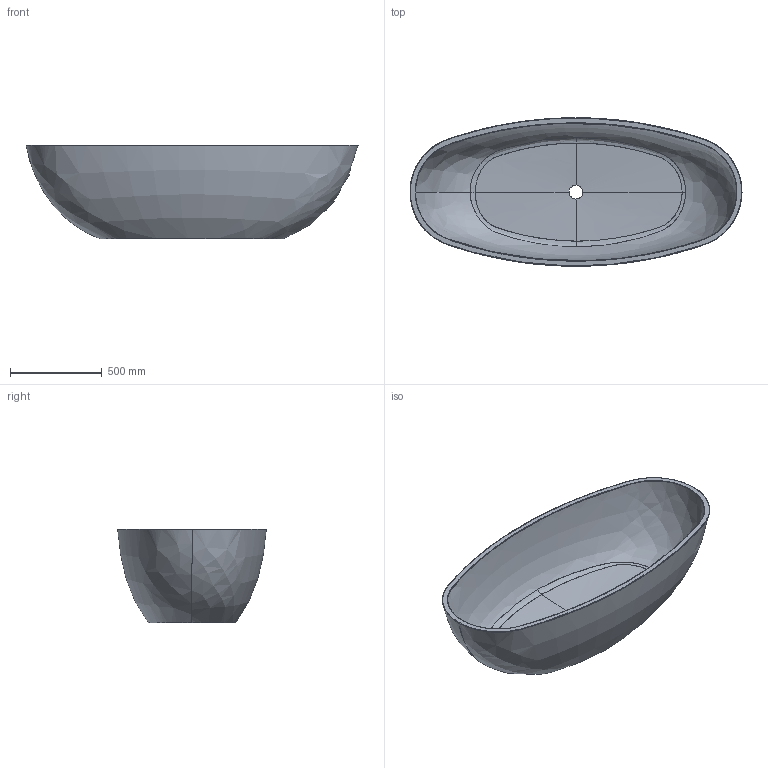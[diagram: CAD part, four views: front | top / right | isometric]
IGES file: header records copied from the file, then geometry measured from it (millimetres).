
Global section: file name: D:\Desktop\GIOVANNI\SCHEDE PRODOTTO\VASCHE\VASCHE FREESTANDING\TURQUOISE\3D\TURQUOISE.igs; native system: Rhinoceros ( Jan 17 2018 ); preprocessor: Trout Lake IGES 012 Jan 17 2018; date: 230531.121723; units: millimetre
Bounding box: 1809.08 x 809.77 x 510 mm (x, y, z)
Surface area: 4448652.9 mm2 (no closed solid volume)
Topology: 0 solids, 0 shells, 13 faces, 374 edges, 370 vertices
Faces by surface type: bspline 13
